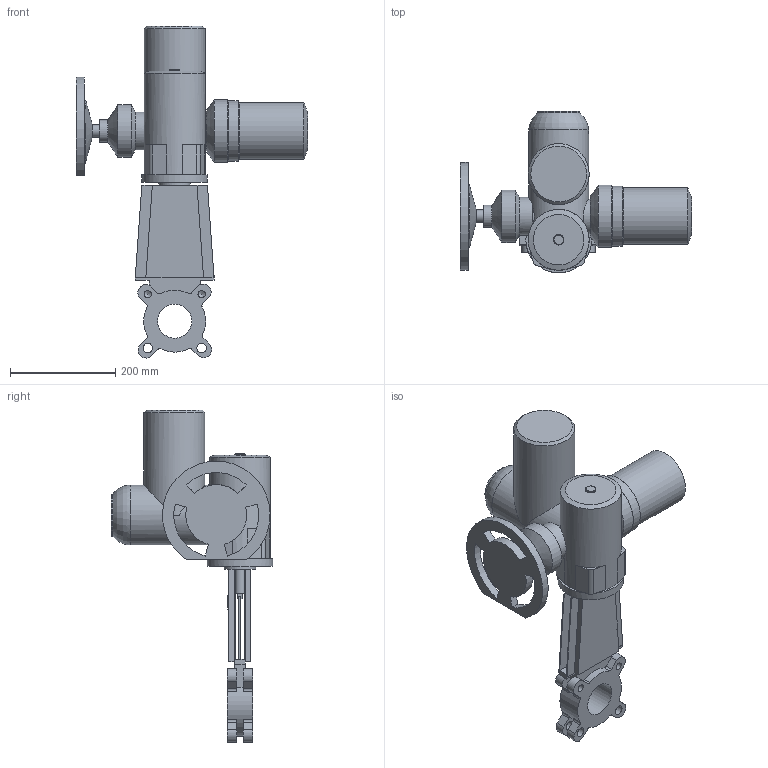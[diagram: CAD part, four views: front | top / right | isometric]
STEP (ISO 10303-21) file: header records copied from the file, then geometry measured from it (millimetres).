
FILE_DESCRIPTION(('STEP AP203'), '1');
FILE_NAME('K51GVA_DN65+MT903.A 07', '', ('UNSPECIFIED'), ('UNSPECIFIED'), 'ASCON STEP Converter 1.6', 'ASCON Math Kernel', '');
FILE_SCHEMA(('CONFIG_CONTROL_DESIGN'));
Length unit declared in the file: millimetre
Bounding box: 440 x 307.5 x 632.23 mm (x, y, z)
Volume: 9247451.4 mm3; surface area: 619695.4 mm2
Topology: 1 solids, 1 shells, 244 faces, 656 edges, 421 vertices
Faces by surface type: plane 147, cylinder 82, cone 14, torus 1
Full cylindrical faces by diameter (mm): 8.5 x4, 12 x4, 13.835 x4, 18 x4, 20 x2, 24 x1, 42 x1, 60 x1, 65 x1, 66 x1, 72 x1, 80 x1, 100 x1, 108 x1, 114 x1, 115 x1, 116 x2, 119 x1, 125 x1
Entity records: 10450 total; most frequent: CARTESIAN_POINT 2402, DIRECTION 1276, ORIENTED_EDGE 1206, EDGE_CURVE 603, AXIS2_PLACEMENT_3D 455, VERTEX_POINT 417, LINE 366, VECTOR 366
